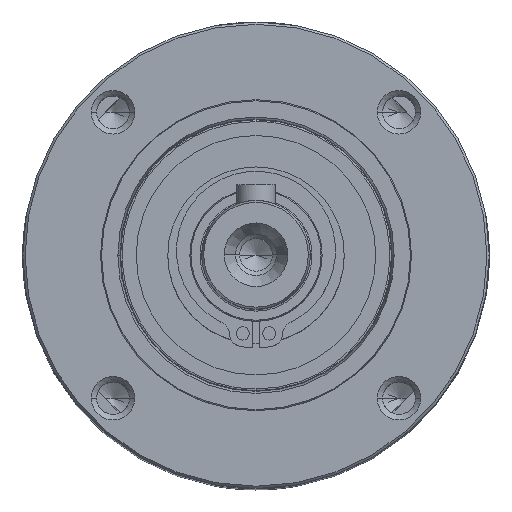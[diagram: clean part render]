
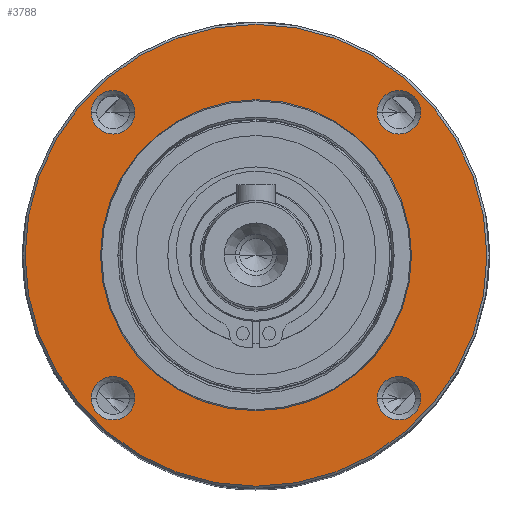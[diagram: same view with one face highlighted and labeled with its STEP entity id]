
A CAD part, top view. The second image highlights one B-rep face of the part: STEP entity #3788.
In plain terms, the highlighted planar face has unit normal (0, 0, 1).
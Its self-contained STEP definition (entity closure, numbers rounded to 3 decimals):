
#27 = CIRCLE ( 'NONE', #5494, 2.8 ) ;
#317 = AXIS2_PLACEMENT_3D ( 'NONE', #14213, #11024, #12839 ) ;
#357 = AXIS2_PLACEMENT_3D ( 'NONE', #1018, #4653, #4771 ) ;
#621 = DIRECTION ( 'NONE',  ( 1., 0., 0. ) ) ;
#982 = VERTEX_POINT ( 'NONE', #9011 ) ;
#994 = PLANE ( 'NONE',  #7063 ) ;
#1018 = CARTESIAN_POINT ( 'NONE',  ( 18.385, -18.385, 107.3 ) ) ;
#1061 = ORIENTED_EDGE ( 'NONE', *, *, #2980, .T. ) ;
#1079 = AXIS2_PLACEMENT_3D ( 'NONE', #3798, #15747, #621 ) ;
#1224 = CARTESIAN_POINT ( 'NONE',  ( 21.185, 18.385, 107.3 ) ) ;
#1517 = DIRECTION ( 'NONE',  ( -1., 0., 0. ) ) ;
#2082 = AXIS2_PLACEMENT_3D ( 'NONE', #3713, #4055, #2099 ) ;
#2099 = DIRECTION ( 'NONE',  ( 1., 0., 0. ) ) ;
#2924 = CARTESIAN_POINT ( 'NONE',  ( 0., 30., 107.3 ) ) ;
#2932 = DIRECTION ( 'NONE',  ( -1., 0., 0. ) ) ;
#2980 = EDGE_CURVE ( 'NONE', #10807, #6211, #20114, .T. ) ;
#3045 = FACE_OUTER_BOUND ( 'NONE', #8039, .T. ) ;
#3126 = ORIENTED_EDGE ( 'NONE', *, *, #20404, .T. ) ;
#3143 = FACE_BOUND ( 'NONE', #5931, .T. ) ;
#3491 = EDGE_LOOP ( 'NONE', ( #3126, #1061 ) ) ;
#3546 = EDGE_LOOP ( 'NONE', ( #4506, #7952 ) ) ;
#3713 = CARTESIAN_POINT ( 'NONE',  ( 0., 0., 107.3 ) ) ;
#3788 = ADVANCED_FACE ( 'NONE', ( #3143, #6221, #17033, #4868, #3045, #16696 ), #994, .F. ) ;
#3798 = CARTESIAN_POINT ( 'NONE',  ( 0., 0., 107.3 ) ) ;
#4055 = DIRECTION ( 'NONE',  ( 0., 0., 1. ) ) ;
#4272 = CARTESIAN_POINT ( 'NONE',  ( -21.185, 18.385, 107.3 ) ) ;
#4415 = ORIENTED_EDGE ( 'NONE', *, *, #10447, .T. ) ;
#4506 = ORIENTED_EDGE ( 'NONE', *, *, #19159, .F. ) ;
#4653 = DIRECTION ( 'NONE',  ( 0., 0., -1. ) ) ;
#4706 = CIRCLE ( 'NONE', #19616, 2.8 ) ;
#4771 = DIRECTION ( 'NONE',  ( -1., 0., 0. ) ) ;
#4810 = EDGE_CURVE ( 'NONE', #21498, #13988, #4706, .T. ) ;
#4868 = FACE_BOUND ( 'NONE', #20637, .T. ) ;
#5120 = VERTEX_POINT ( 'NONE', #12721 ) ;
#5160 = CARTESIAN_POINT ( 'NONE',  ( 0., 0., 107.3 ) ) ;
#5216 = DIRECTION ( 'NONE',  ( -1., 0., 0. ) ) ;
#5410 = CARTESIAN_POINT ( 'NONE',  ( -29.7, 0., 107.3 ) ) ;
#5417 = EDGE_CURVE ( 'NONE', #5120, #14344, #16291, .T. ) ;
#5494 = AXIS2_PLACEMENT_3D ( 'NONE', #11459, #20228, #18162 ) ;
#5689 = EDGE_CURVE ( 'NONE', #14344, #5120, #5769, .T. ) ;
#5769 = CIRCLE ( 'NONE', #317, 29.7 ) ;
#5931 = EDGE_LOOP ( 'NONE', ( #14608, #21851 ) ) ;
#6211 = VERTEX_POINT ( 'NONE', #1224 ) ;
#6221 = FACE_BOUND ( 'NONE', #8293, .T. ) ;
#6257 = AXIS2_PLACEMENT_3D ( 'NONE', #11357, #18316, #16565 ) ;
#6733 = ORIENTED_EDGE ( 'NONE', *, *, #17238, .T. ) ;
#7058 = ORIENTED_EDGE ( 'NONE', *, *, #5417, .T. ) ;
#7063 = AXIS2_PLACEMENT_3D ( 'NONE', #2924, #7939, #14870 ) ;
#7420 = EDGE_CURVE ( 'NONE', #13624, #13017, #17761, .T. ) ;
#7622 = DIRECTION ( 'NONE',  ( 0., 0., -1. ) ) ;
#7898 = AXIS2_PLACEMENT_3D ( 'NONE', #16485, #14443, #19589 ) ;
#7939 = DIRECTION ( 'NONE',  ( 0., 0., -1. ) ) ;
#7952 = ORIENTED_EDGE ( 'NONE', *, *, #10224, .F. ) ;
#8039 = EDGE_LOOP ( 'NONE', ( #21680, #7058 ) ) ;
#8070 = AXIS2_PLACEMENT_3D ( 'NONE', #13692, #17216, #20677 ) ;
#8293 = EDGE_LOOP ( 'NONE', ( #6733, #10693 ) ) ;
#8699 = CARTESIAN_POINT ( 'NONE',  ( -15.585, 18.385, 107.3 ) ) ;
#9011 = CARTESIAN_POINT ( 'NONE',  ( 21.185, -18.385, 107.3 ) ) ;
#10224 = EDGE_CURVE ( 'NONE', #19577, #11246, #11904, .T. ) ;
#10253 = CARTESIAN_POINT ( 'NONE',  ( -15.585, -18.385, 107.3 ) ) ;
#10363 = CARTESIAN_POINT ( 'NONE',  ( -21.185, -18.385, 107.3 ) ) ;
#10447 = EDGE_CURVE ( 'NONE', #13017, #13624, #17075, .T. ) ;
#10623 = CIRCLE ( 'NONE', #8070, 2.8 ) ;
#10693 = ORIENTED_EDGE ( 'NONE', *, *, #11297, .T. ) ;
#10807 = VERTEX_POINT ( 'NONE', #11816 ) ;
#10822 = DIRECTION ( 'NONE',  ( 0., 0., -1. ) ) ;
#11024 = DIRECTION ( 'NONE',  ( 0., 0., 1. ) ) ;
#11246 = VERTEX_POINT ( 'NONE', #15038 ) ;
#11297 = EDGE_CURVE ( 'NONE', #14037, #982, #18584, .T. ) ;
#11357 = CARTESIAN_POINT ( 'NONE',  ( 18.385, 18.385, 107.3 ) ) ;
#11459 = CARTESIAN_POINT ( 'NONE',  ( -18.385, -18.385, 107.3 ) ) ;
#11816 = CARTESIAN_POINT ( 'NONE',  ( 15.585, 18.385, 107.3 ) ) ;
#11904 = CIRCLE ( 'NONE', #2082, 20. ) ;
#12086 = DIRECTION ( 'NONE',  ( 0., 0., 1. ) ) ;
#12643 = DIRECTION ( 'NONE',  ( -1., 0., 0. ) ) ;
#12721 = CARTESIAN_POINT ( 'NONE',  ( 29.7, 0., 107.3 ) ) ;
#12839 = DIRECTION ( 'NONE',  ( -1., 0., 0. ) ) ;
#13017 = VERTEX_POINT ( 'NONE', #8699 ) ;
#13036 = AXIS2_PLACEMENT_3D ( 'NONE', #5160, #12086, #1517 ) ;
#13442 = ORIENTED_EDGE ( 'NONE', *, *, #7420, .T. ) ;
#13624 = VERTEX_POINT ( 'NONE', #4272 ) ;
#13692 = CARTESIAN_POINT ( 'NONE',  ( 18.385, 18.385, 107.3 ) ) ;
#13988 = VERTEX_POINT ( 'NONE', #10363 ) ;
#14037 = VERTEX_POINT ( 'NONE', #16021 ) ;
#14213 = CARTESIAN_POINT ( 'NONE',  ( 0., 0., 107.3 ) ) ;
#14344 = VERTEX_POINT ( 'NONE', #5410 ) ;
#14443 = DIRECTION ( 'NONE',  ( 0., 0., -1. ) ) ;
#14608 = ORIENTED_EDGE ( 'NONE', *, *, #4810, .T. ) ;
#14870 = DIRECTION ( 'NONE',  ( -1., 0., 0. ) ) ;
#14885 = CIRCLE ( 'NONE', #1079, 20. ) ;
#15038 = CARTESIAN_POINT ( 'NONE',  ( 20., 0., 107.3 ) ) ;
#15446 = EDGE_CURVE ( 'NONE', #13988, #21498, #27, .T. ) ;
#15747 = DIRECTION ( 'NONE',  ( 0., 0., 1. ) ) ;
#15792 = CARTESIAN_POINT ( 'NONE',  ( -18.385, -18.385, 107.3 ) ) ;
#16021 = CARTESIAN_POINT ( 'NONE',  ( 15.585, -18.385, 107.3 ) ) ;
#16291 = CIRCLE ( 'NONE', #13036, 29.7 ) ;
#16485 = CARTESIAN_POINT ( 'NONE',  ( 18.385, -18.385, 107.3 ) ) ;
#16565 = DIRECTION ( 'NONE',  ( -1., 0., 0. ) ) ;
#16696 = FACE_BOUND ( 'NONE', #3546, .T. ) ;
#16736 = AXIS2_PLACEMENT_3D ( 'NONE', #19951, #7622, #12643 ) ;
#17033 = FACE_BOUND ( 'NONE', #3491, .T. ) ;
#17075 = CIRCLE ( 'NONE', #16736, 2.8 ) ;
#17216 = DIRECTION ( 'NONE',  ( 0., 0., -1. ) ) ;
#17238 = EDGE_CURVE ( 'NONE', #982, #14037, #18825, .T. ) ;
#17761 = CIRCLE ( 'NONE', #22501, 2.8 ) ;
#18162 = DIRECTION ( 'NONE',  ( -1., 0., 0. ) ) ;
#18316 = DIRECTION ( 'NONE',  ( 0., 0., -1. ) ) ;
#18584 = CIRCLE ( 'NONE', #357, 2.8 ) ;
#18825 = CIRCLE ( 'NONE', #7898, 2.8 ) ;
#19159 = EDGE_CURVE ( 'NONE', #11246, #19577, #14885, .T. ) ;
#19400 = CARTESIAN_POINT ( 'NONE',  ( -18.385, 18.385, 107.3 ) ) ;
#19577 = VERTEX_POINT ( 'NONE', #20648 ) ;
#19589 = DIRECTION ( 'NONE',  ( -1., 0., 0. ) ) ;
#19616 = AXIS2_PLACEMENT_3D ( 'NONE', #15792, #20853, #5216 ) ;
#19951 = CARTESIAN_POINT ( 'NONE',  ( -18.385, 18.385, 107.3 ) ) ;
#20114 = CIRCLE ( 'NONE', #6257, 2.8 ) ;
#20228 = DIRECTION ( 'NONE',  ( 0., 0., -1. ) ) ;
#20404 = EDGE_CURVE ( 'NONE', #6211, #10807, #10623, .T. ) ;
#20637 = EDGE_LOOP ( 'NONE', ( #4415, #13442 ) ) ;
#20648 = CARTESIAN_POINT ( 'NONE',  ( -20., 0., 107.3 ) ) ;
#20677 = DIRECTION ( 'NONE',  ( -1., 0., 0. ) ) ;
#20853 = DIRECTION ( 'NONE',  ( 0., 0., -1. ) ) ;
#21498 = VERTEX_POINT ( 'NONE', #10253 ) ;
#21680 = ORIENTED_EDGE ( 'NONE', *, *, #5689, .T. ) ;
#21851 = ORIENTED_EDGE ( 'NONE', *, *, #15446, .T. ) ;
#22501 = AXIS2_PLACEMENT_3D ( 'NONE', #19400, #10822, #2932 ) ;
